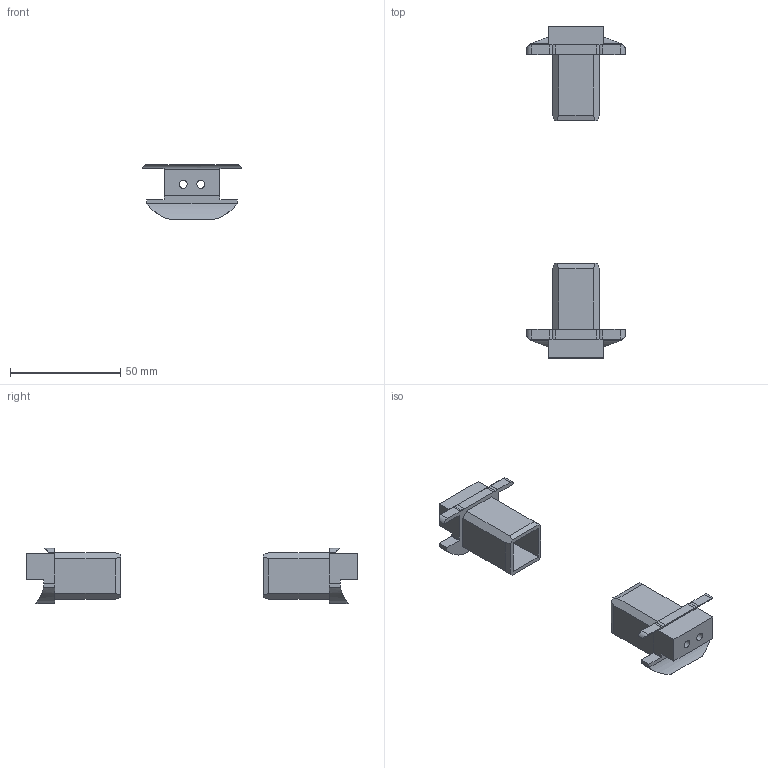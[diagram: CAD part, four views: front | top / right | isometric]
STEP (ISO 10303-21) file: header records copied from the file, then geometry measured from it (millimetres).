
FILE_DESCRIPTION (( 'STEP AP214' ), '1' );
FILE_NAME ('L15844 ENS.step', '2024-12-03T16:22:16', ( '' ), ( '' ), 'SwSTEP 2.0', 'SolidWorks 2023', '' );
FILE_SCHEMA (( 'AUTOMOTIVE_DESIGN' ));
Length unit declared in the file: millimetre
Products named in the file (2): L15844 ENS; L15844
Assembly tree (2 placements, depth 2):
  L15844 ENS
    L15844  x2
Bounding box: 44.88 x 150.57 x 25 mm (x, y, z)
Volume: 25099.6 mm3; surface area: 14534.3 mm2
Topology: 2 solids, 2 shells, 120 faces, 340 edges, 228 vertices
Faces by surface type: plane 76, cylinder 44
Full cylindrical faces by diameter (mm): 3.6 x4
Entity records: 2025 total; most frequent: CARTESIAN_POINT 415, ORIENTED_EDGE 332, DIRECTION 314, EDGE_CURVE 166, LINE 116, VECTOR 116, VERTEX_POINT 112, AXIS2_PLACEMENT_3D 99
